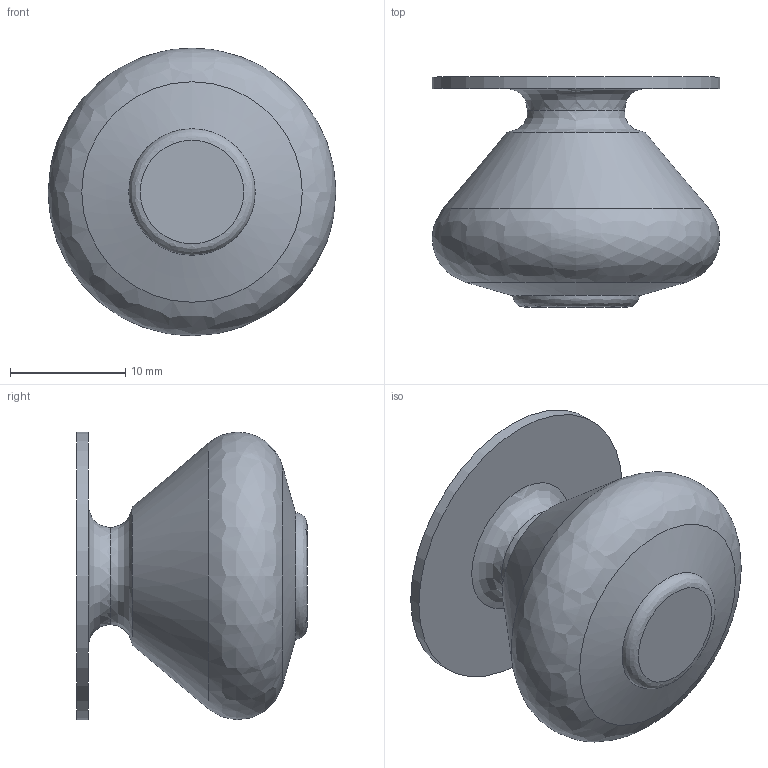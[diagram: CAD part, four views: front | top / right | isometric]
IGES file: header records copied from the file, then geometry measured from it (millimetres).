
Start section: Data from Parasolid IGES Translator 15.0.47, Copyright(c) 2006 Siemens P LM Software. All Rights Reserved.
Global section: file name: 9071109.igs; native system:  By UGS Corp.; preprocessor: XPlus GENERIC/IGES 3.0; author: Noname; organization: Noname; date: 20140122.135834; units: millimetre
Bounding box: 25 x 20 x 25 mm (x, y, z)
Surface area: 2644.2 mm2 (no closed solid volume)
Topology: 0 solids, 0 shells, 12 faces, 42 edges, 33 vertices
Faces by surface type: revolution 8, extrusion 4
